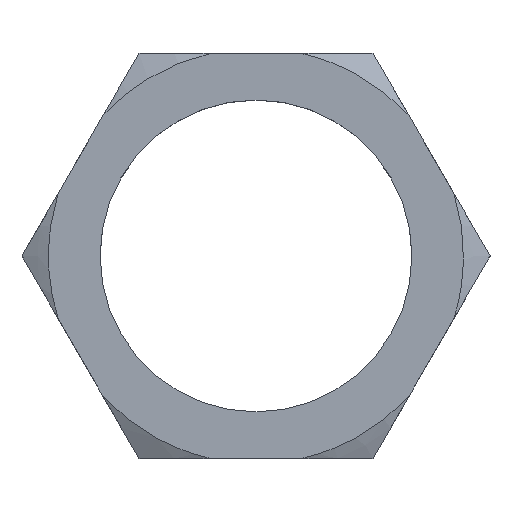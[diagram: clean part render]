
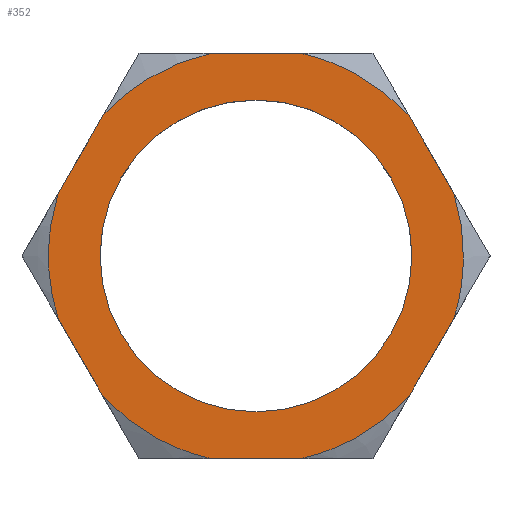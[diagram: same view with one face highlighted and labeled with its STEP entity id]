
A CAD part, top view. The second image highlights one B-rep face of the part: STEP entity #352.
In plain terms, the highlighted planar face has unit normal (0, 0, 1).
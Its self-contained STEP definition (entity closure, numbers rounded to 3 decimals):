
#57=CARTESIAN_POINT('Axis2P3D Location',(0.,0.,82.)) ;
#61=CARTESIAN_POINT('Vertex',(-25.,0.,82.)) ;
#63=CARTESIAN_POINT('Vertex',(25.,0.,82.)) ;
#92=CARTESIAN_POINT('Axis2P3D Location',(0.,0.,82.)) ;
#197=CARTESIAN_POINT('Axis2P3D Location',(0.,0.,82.)) ;
#203=CARTESIAN_POINT('Control Point',(-7.186,32.5,82.)) ;
#204=CARTESIAN_POINT('Control Point',(-9.397,32.011,82.)) ;
#205=CARTESIAN_POINT('Control Point',(-11.566,31.334,82.)) ;
#206=CARTESIAN_POINT('Control Point',(-13.672,30.474,82.)) ;
#207=CARTESIAN_POINT('Control Point',(-17.312,28.612,82.)) ;
#208=CARTESIAN_POINT('Control Point',(-20.622,26.221,82.)) ;
#209=CARTESIAN_POINT('Control Point',(-22.018,25.061,82.)) ;
#210=CARTESIAN_POINT('Control Point',(-23.331,23.808,82.)) ;
#211=CARTESIAN_POINT('Control Point',(-24.553,22.473,82.)) ;
#212=CARTESIAN_POINT('Vertex',(-7.186,32.5,82.)) ;
#214=CARTESIAN_POINT('Vertex',(-24.553,22.473,82.)) ;
#217=CARTESIAN_POINT('Line Origine',(-28.146,16.25,82.)) ;
#221=CARTESIAN_POINT('Vertex',(-31.739,10.027,82.)) ;
#225=CARTESIAN_POINT('Control Point',(-31.739,10.027,82.)) ;
#226=CARTESIAN_POINT('Control Point',(-32.367,8.038,82.)) ;
#227=CARTESIAN_POINT('Control Point',(-32.839,6.001,82.)) ;
#228=CARTESIAN_POINT('Control Point',(-33.151,3.93,82.)) ;
#229=CARTESIAN_POINT('Control Point',(-33.441,-0.146,82.)) ;
#230=CARTESIAN_POINT('Control Point',(-33.107,-4.218,82.)) ;
#231=CARTESIAN_POINT('Control Point',(-32.795,-6.189,82.)) ;
#232=CARTESIAN_POINT('Control Point',(-32.338,-8.13,82.)) ;
#233=CARTESIAN_POINT('Control Point',(-31.739,-10.027,82.)) ;
#234=CARTESIAN_POINT('Vertex',(-31.739,-10.027,82.)) ;
#237=CARTESIAN_POINT('Line Origine',(-28.146,-16.25,82.)) ;
#241=CARTESIAN_POINT('Vertex',(-24.553,-22.473,82.)) ;
#245=CARTESIAN_POINT('Control Point',(-24.553,-22.473,82.)) ;
#246=CARTESIAN_POINT('Control Point',(-24.108,-22.959,82.)) ;
#247=CARTESIAN_POINT('Control Point',(-23.652,-23.433,82.)) ;
#248=CARTESIAN_POINT('Control Point',(-23.184,-23.897,82.)) ;
#249=CARTESIAN_POINT('Control Point',(-21.056,-25.901,82.)) ;
#250=CARTESIAN_POINT('Control Point',(-18.714,-27.666,82.)) ;
#251=CARTESIAN_POINT('Control Point',(-16.787,-28.876,82.)) ;
#252=CARTESIAN_POINT('Control Point',(-13.739,-30.445,82.)) ;
#253=CARTESIAN_POINT('Control Point',(-10.524,-31.609,82.)) ;
#254=CARTESIAN_POINT('Control Point',(-9.424,-31.954,82.)) ;
#255=CARTESIAN_POINT('Control Point',(-8.31,-32.251,82.)) ;
#256=CARTESIAN_POINT('Control Point',(-7.186,-32.5,82.)) ;
#257=CARTESIAN_POINT('Vertex',(-7.186,-32.5,82.)) ;
#260=CARTESIAN_POINT('Line Origine',(0.,-32.5,82.)) ;
#264=CARTESIAN_POINT('Vertex',(7.186,-32.5,82.)) ;
#268=CARTESIAN_POINT('Control Point',(24.553,-22.473,82.)) ;
#269=CARTESIAN_POINT('Control Point',(24.017,-23.059,82.)) ;
#270=CARTESIAN_POINT('Control Point',(23.463,-23.628,82.)) ;
#271=CARTESIAN_POINT('Control Point',(22.893,-24.181,82.)) ;
#272=CARTESIAN_POINT('Control Point',(20.634,-26.244,82.)) ;
#273=CARTESIAN_POINT('Control Point',(18.147,-28.041,82.)) ;
#274=CARTESIAN_POINT('Control Point',(16.195,-29.212,82.)) ;
#275=CARTESIAN_POINT('Control Point',(13.238,-30.659,82.)) ;
#276=CARTESIAN_POINT('Control Point',(10.135,-31.729,82.)) ;
#277=CARTESIAN_POINT('Control Point',(9.162,-32.023,82.)) ;
#278=CARTESIAN_POINT('Control Point',(8.178,-32.281,82.)) ;
#279=CARTESIAN_POINT('Control Point',(7.186,-32.5,82.)) ;
#280=CARTESIAN_POINT('Vertex',(24.553,-22.473,82.)) ;
#283=CARTESIAN_POINT('Line Origine',(28.146,-16.25,82.)) ;
#287=CARTESIAN_POINT('Vertex',(31.739,-10.027,82.)) ;
#291=CARTESIAN_POINT('Control Point',(31.739,10.027,82.)) ;
#292=CARTESIAN_POINT('Control Point',(32.032,9.099,82.)) ;
#293=CARTESIAN_POINT('Control Point',(32.291,8.161,82.)) ;
#294=CARTESIAN_POINT('Control Point',(32.516,7.214,82.)) ;
#295=CARTESIAN_POINT('Control Point',(33.148,4.038,82.)) ;
#296=CARTESIAN_POINT('Control Point',(33.391,0.799,82.)) ;
#297=CARTESIAN_POINT('Control Point',(33.368,-1.476,82.)) ;
#298=CARTESIAN_POINT('Control Point',(33.072,-4.575,82.)) ;
#299=CARTESIAN_POINT('Control Point',(32.42,-7.609,82.)) ;
#300=CARTESIAN_POINT('Control Point',(32.218,-8.422,82.)) ;
#301=CARTESIAN_POINT('Control Point',(31.991,-9.228,82.)) ;
#302=CARTESIAN_POINT('Control Point',(31.739,-10.027,82.)) ;
#303=CARTESIAN_POINT('Vertex',(31.739,10.027,82.)) ;
#306=CARTESIAN_POINT('Line Origine',(28.146,16.25,82.)) ;
#310=CARTESIAN_POINT('Vertex',(24.553,22.473,82.)) ;
#314=CARTESIAN_POINT('Control Point',(24.553,22.473,82.)) ;
#315=CARTESIAN_POINT('Control Point',(24.108,22.959,82.)) ;
#316=CARTESIAN_POINT('Control Point',(23.652,23.433,82.)) ;
#317=CARTESIAN_POINT('Control Point',(23.184,23.897,82.)) ;
#318=CARTESIAN_POINT('Control Point',(21.056,25.901,82.)) ;
#319=CARTESIAN_POINT('Control Point',(18.714,27.666,82.)) ;
#320=CARTESIAN_POINT('Control Point',(16.787,28.876,82.)) ;
#321=CARTESIAN_POINT('Control Point',(13.739,30.445,82.)) ;
#322=CARTESIAN_POINT('Control Point',(10.524,31.609,82.)) ;
#323=CARTESIAN_POINT('Control Point',(9.424,31.954,82.)) ;
#324=CARTESIAN_POINT('Control Point',(8.31,32.251,82.)) ;
#325=CARTESIAN_POINT('Control Point',(7.186,32.5,82.)) ;
#326=CARTESIAN_POINT('Vertex',(7.186,32.5,82.)) ;
#329=CARTESIAN_POINT('Line Origine',(0.,32.5,82.)) ;
#58=DIRECTION('Axis2P3D Direction',(0.,0.,1.)) ;
#93=DIRECTION('Axis2P3D Direction',(0.,0.,1.)) ;
#198=DIRECTION('Axis2P3D Direction',(0.,0.,1.)) ;
#199=DIRECTION('Axis2P3D XDirection',(1.,0.,0.)) ;
#218=DIRECTION('Vector Direction',(-0.5,-0.866,0.)) ;
#238=DIRECTION('Vector Direction',(0.5,-0.866,0.)) ;
#261=DIRECTION('Vector Direction',(1.,0.,0.)) ;
#284=DIRECTION('Vector Direction',(0.5,0.866,0.)) ;
#307=DIRECTION('Vector Direction',(-0.5,0.866,0.)) ;
#330=DIRECTION('Vector Direction',(-1.,0.,0.)) ;
#59=AXIS2_PLACEMENT_3D('Circle Axis2P3D',#57,#58,$) ;
#94=AXIS2_PLACEMENT_3D('Circle Axis2P3D',#92,#93,$) ;
#200=AXIS2_PLACEMENT_3D('Plane Axis2P3D',#197,#198,#199) ;
#335=ORIENTED_EDGE('',*,*,#216,.T.) ;
#336=ORIENTED_EDGE('',*,*,#223,.T.) ;
#337=ORIENTED_EDGE('',*,*,#236,.T.) ;
#338=ORIENTED_EDGE('',*,*,#243,.T.) ;
#339=ORIENTED_EDGE('',*,*,#259,.T.) ;
#340=ORIENTED_EDGE('',*,*,#266,.T.) ;
#341=ORIENTED_EDGE('',*,*,#282,.F.) ;
#342=ORIENTED_EDGE('',*,*,#289,.T.) ;
#343=ORIENTED_EDGE('',*,*,#305,.F.) ;
#344=ORIENTED_EDGE('',*,*,#312,.T.) ;
#345=ORIENTED_EDGE('',*,*,#328,.T.) ;
#346=ORIENTED_EDGE('',*,*,#333,.T.) ;
#349=ORIENTED_EDGE('',*,*,#65,.F.) ;
#350=ORIENTED_EDGE('',*,*,#96,.F.) ;
#351=FACE_BOUND('',#348,.T.) ;
#219=VECTOR('Line Direction',#218,1.) ;
#239=VECTOR('Line Direction',#238,1.) ;
#262=VECTOR('Line Direction',#261,1.) ;
#285=VECTOR('Line Direction',#284,1.) ;
#308=VECTOR('Line Direction',#307,1.) ;
#331=VECTOR('Line Direction',#330,1.) ;
#352=ADVANCED_FACE('',(#347,#351),#201,.T.) ;
#202=B_SPLINE_CURVE_WITH_KNOTS('',5,(#203,#204,#205,#206,#207,#208,#209,#210,#211),.UNSPECIFIED.,.F.,.U.,(6,3,6),(0.,12.026,21.64),.UNSPECIFIED.) ;
#224=B_SPLINE_CURVE_WITH_KNOTS('',5,(#225,#226,#227,#228,#229,#230,#231,#232,#233),.UNSPECIFIED.,.F.,.U.,(6,3,6),(37.03,48.106,58.67),.UNSPECIFIED.) ;
#244=B_SPLINE_CURVE_WITH_KNOTS('',5,(#245,#246,#247,#248,#249,#250,#251,#252,#253,#254,#255,#256),.UNSPECIFIED.,.F.,.U.,(6,3,3,6),(8.529,12.026,24.053,30.169),.UNSPECIFIED.) ;
#267=B_SPLINE_CURVE_WITH_KNOTS('',5,(#268,#269,#270,#271,#272,#273,#274,#275,#276,#277,#278,#279),.UNSPECIFIED.,.F.,.U.,(6,3,3,6),(43.89,48.106,60.133,65.53),.UNSPECIFIED.) ;
#290=B_SPLINE_CURVE_WITH_KNOTS('',5,(#291,#292,#293,#294,#295,#296,#297,#298,#299,#300,#301,#302),.UNSPECIFIED.,.F.,.U.,(6,3,3,6),(6.86,12.026,24.053,28.5),.UNSPECIFIED.) ;
#313=B_SPLINE_CURVE_WITH_KNOTS('',5,(#314,#315,#316,#317,#318,#319,#320,#321,#322,#323,#324,#325),.UNSPECIFIED.,.F.,.U.,(6,3,3,6),(8.529,12.026,24.053,30.169),.UNSPECIFIED.) ;
#60=CIRCLE('generated circle',#59,25.) ;
#95=CIRCLE('generated circle',#94,25.) ;
#65=EDGE_CURVE('',#62,#64,#60,.T.) ;
#96=EDGE_CURVE('',#64,#62,#95,.T.) ;
#216=EDGE_CURVE('',#213,#215,#202,.T.) ;
#223=EDGE_CURVE('',#215,#222,#220,.T.) ;
#236=EDGE_CURVE('',#222,#235,#224,.T.) ;
#243=EDGE_CURVE('',#235,#242,#240,.T.) ;
#259=EDGE_CURVE('',#242,#258,#244,.T.) ;
#266=EDGE_CURVE('',#258,#265,#263,.T.) ;
#282=EDGE_CURVE('',#281,#265,#267,.T.) ;
#289=EDGE_CURVE('',#281,#288,#286,.T.) ;
#305=EDGE_CURVE('',#304,#288,#290,.T.) ;
#312=EDGE_CURVE('',#304,#311,#309,.T.) ;
#328=EDGE_CURVE('',#311,#327,#313,.T.) ;
#333=EDGE_CURVE('',#327,#213,#332,.T.) ;
#334=EDGE_LOOP('',(#335,#336,#337,#338,#339,#340,#341,#342,#343,#344,#345,#346)) ;
#348=EDGE_LOOP('',(#349,#350)) ;
#347=FACE_OUTER_BOUND('',#334,.T.) ;
#220=LINE('Line',#217,#219) ;
#240=LINE('Line',#237,#239) ;
#263=LINE('Line',#260,#262) ;
#286=LINE('Line',#283,#285) ;
#309=LINE('Line',#306,#308) ;
#332=LINE('Line',#329,#331) ;
#201=PLANE('Plane',#200) ;
#62=VERTEX_POINT('',#61) ;
#64=VERTEX_POINT('',#63) ;
#213=VERTEX_POINT('',#212) ;
#215=VERTEX_POINT('',#214) ;
#222=VERTEX_POINT('',#221) ;
#235=VERTEX_POINT('',#234) ;
#242=VERTEX_POINT('',#241) ;
#258=VERTEX_POINT('',#257) ;
#265=VERTEX_POINT('',#264) ;
#281=VERTEX_POINT('',#280) ;
#288=VERTEX_POINT('',#287) ;
#304=VERTEX_POINT('',#303) ;
#311=VERTEX_POINT('',#310) ;
#327=VERTEX_POINT('',#326) ;
